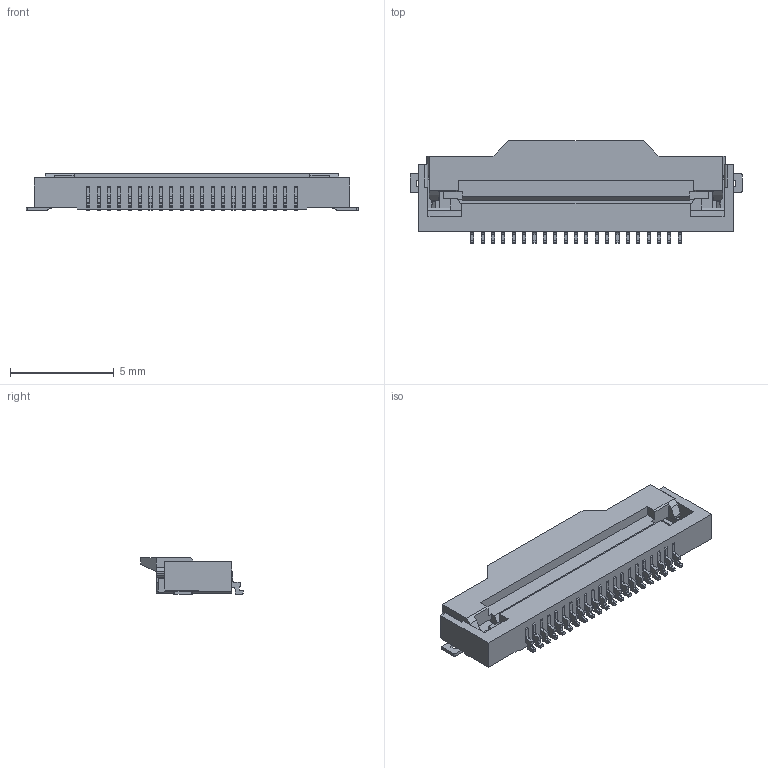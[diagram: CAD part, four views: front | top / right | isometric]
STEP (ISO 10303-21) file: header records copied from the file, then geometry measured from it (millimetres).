
FILE_DESCRIPTION (( 'STEP AP214' ), '1' );
FILE_NAME ('006806021108_607.STEP', '2023-05-19T06:38:52', ( '' ), ( '' ), 'SwSTEP 2.0', 'SolidWorks 2021', '' );
FILE_SCHEMA (( 'AUTOMOTIVE_DESIGN' ));
Length unit declared in the file: millimetre
Products named in the file (1): 006806021108_607
Bounding box: 16 x 4.95 x 1.75 mm (x, y, z)
Volume: 68.3 mm3; surface area: 312.3 mm2
Topology: 1 solids, 1 shells, 609 faces, 1764 edges, 1168 vertices
Faces by surface type: plane 411, cylinder 196, cone 2
Entity records: 20062 total; most frequent: CARTESIAN_POINT 3612, ORIENTED_EDGE 3528, DIRECTION 3356, EDGE_CURVE 1764, LINE 1356, VECTOR 1356, VERTEX_POINT 1168, AXIS2_PLACEMENT_3D 1000
